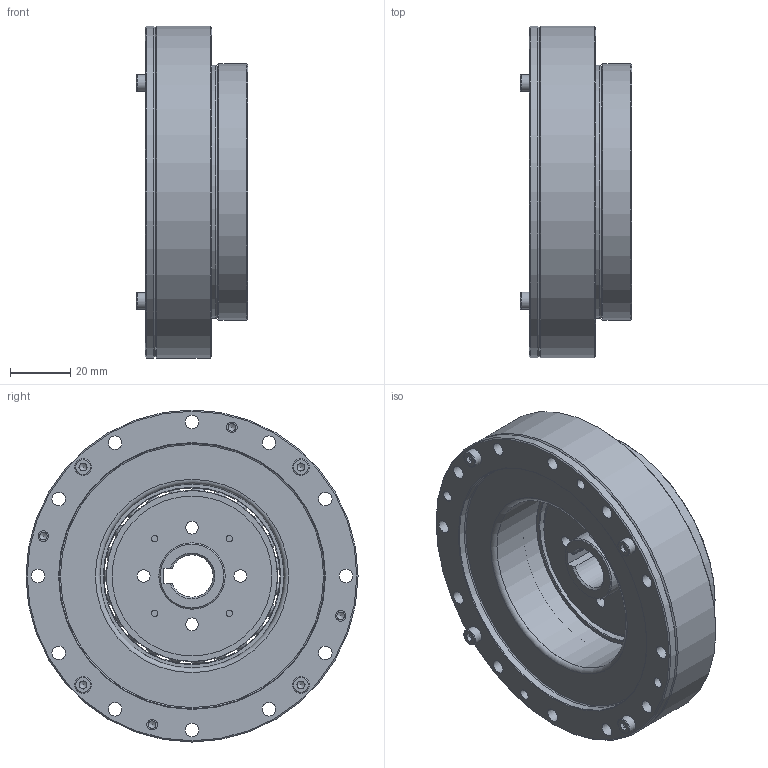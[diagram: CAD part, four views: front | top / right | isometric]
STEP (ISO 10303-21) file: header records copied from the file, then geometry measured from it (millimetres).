
FILE_DESCRIPTION (( 'STEP AP203' ), '1' );
FILE_NAME ('LHSG-25-XXX-C-I-D1.STEP', '2025-07-15T05:54:08', ( '' ), ( '' ), 'SwSTEP 2.0', 'SolidWorks 2023', '' );
FILE_SCHEMA (( 'CONFIG_CONTROL_DESIGN' ));
Length unit declared in the file: millimetre
Products named in the file (1): LHSG-25-XXX-C-I-D1
Bounding box: 37 x 110 x 110 mm (x, y, z)
Volume: 154370.9 mm3; surface area: 112943.8 mm2
Topology: 45 solids, 45 shells, 702 faces, 1665 edges, 1036 vertices
Faces by surface type: plane 302, cylinder 218, cone 117, torus 42, sphere 23
Full cylindrical faces by diameter (mm): 2.05 x4, 2.5 x20, 2.9 x4, 3 x8, 3.3 x16, 3.5 x12, 4.2 x4, 4.5 x24, 4.7 x20, 5.5 x12, 6 x4, 22 x1, 25 x2, 42 x2, 44.2 x1, 45.22 x1, 46 x1, 47 x2, 48.39 x2, 50.1 x1, 53 x1, 56.6 x1, 58.356 x2, 61.072 x1, 61.32 x1, 61.772 x1, 63 x1, 64 x1, 67 x2, 70.8 x1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
Entity records: 17975 total; most frequent: DIRECTION 3320, CARTESIAN_POINT 3033, ORIENTED_EDGE 2464, AXIS2_PLACEMENT_3D 1441, EDGE_CURVE 1232, EDGE_LOOP 1168, VERTEX_POINT 922, FACE_OUTER_BOUND 892
